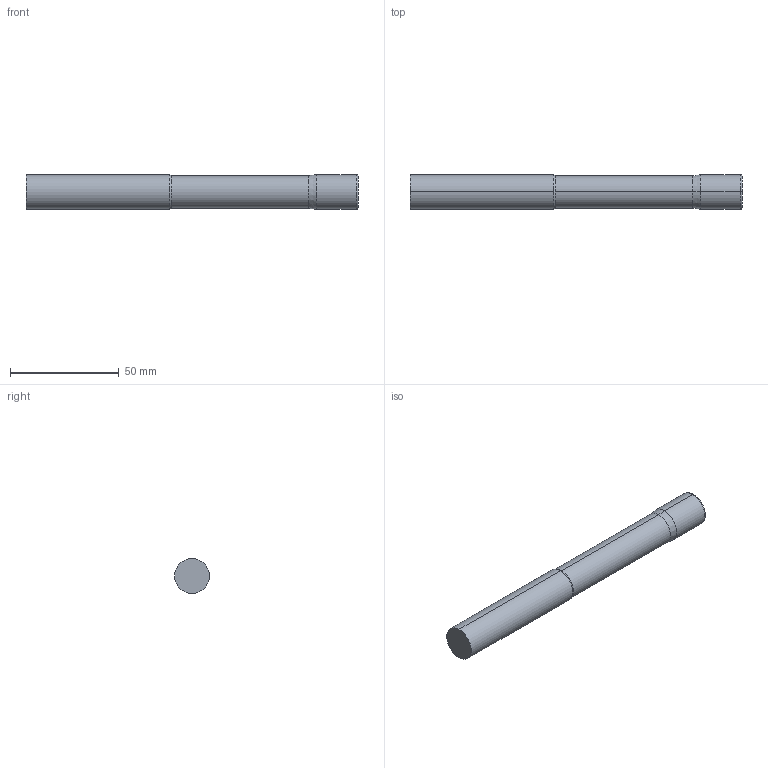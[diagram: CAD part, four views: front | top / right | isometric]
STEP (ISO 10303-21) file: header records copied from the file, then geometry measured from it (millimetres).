
FILE_DESCRIPTION (( 'STEP AP214' ), '1' );
FILE_NAME ('SSIRNL50625-030.STEP', '2025-05-28T13:18:40', ( '' ), ( '' ), 'SwSTEP 2.0', 'SolidWorks 2023', '' );
FILE_SCHEMA (( 'AUTOMOTIVE_DESIGN' ));
Length unit declared in the file: inch
Products named in the file (3): SSI5 Imperial SHANK ONLY_SSIRNL50625-030; SSI5 Imperial LOC ONLY_SSIRNL50625-030; SSIRNL50625-030
Assembly tree (2 placements, depth 2):
  SSIRNL50625-030
    SSI5 Imperial LOC ONLY_SSIRNL50625-030
    SSI5 Imperial SHANK ONLY_SSIRNL50625-030
Bounding box: 152.4 x 15.88 x 15.88 mm (x, y, z)
Volume: 28752.4 mm3; surface area: 8200.6 mm2
Topology: 2 solids, 2 shells, 16 faces, 28 edges, 16 vertices
Faces by surface type: cylinder 6, plane 4, cone 4, torus 2
Entity records: 562 total; most frequent: DIRECTION 88, CARTESIAN_POINT 65, ORIENTED_EDGE 56, AXIS2_PLACEMENT_3D 39, EDGE_CURVE 28, CIRCLE 18, ADVANCED_FACE 16, FACE_OUTER_BOUND 16
